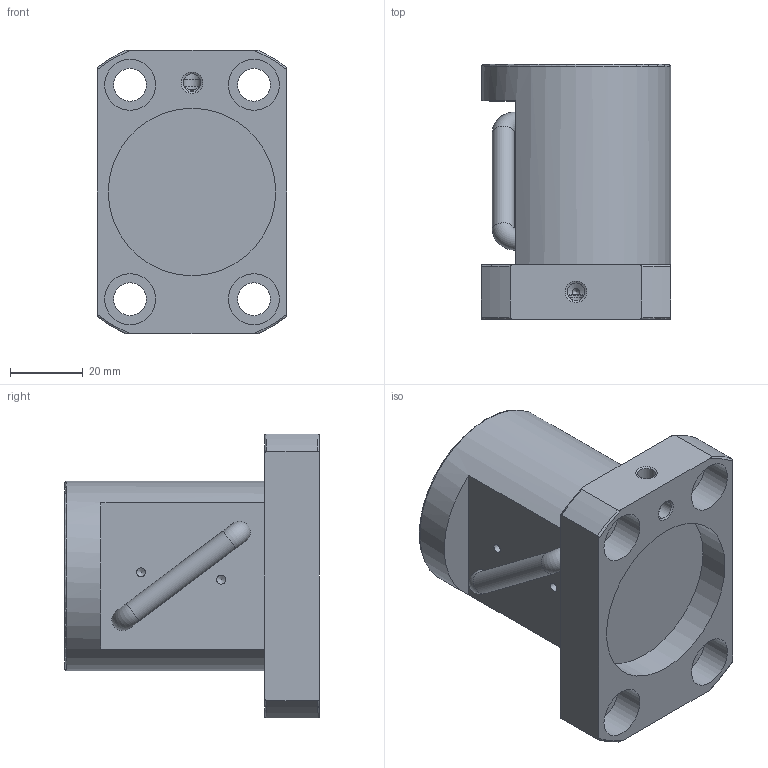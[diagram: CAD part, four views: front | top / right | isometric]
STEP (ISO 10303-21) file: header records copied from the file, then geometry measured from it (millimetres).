
FILE_DESCRIPTION(/* description */ ('Unknown'),/* implementation_level */ '2;1');
FILE_NAME(/* name */ '2520',/* time_stamp */ '2020-11-06T17:06:01+08:00',/* author */ ('Unknown'),/* organization */ ('Unknown'),/* preprocessor_version */ 'ST-DEVELOPER v16.7',/* originating_system */ 'DEX',/* authorisation */ $);
FILE_SCHEMA (('AUTOMOTIVE_DESIGN {1 0 10303 214 3 1 1}'));
Length unit declared in the file: millimetre
Products named in the file (1): 2520
Bounding box: 52 x 70 x 78 mm (x, y, z)
Volume: 130366.1 mm3; surface area: 26108.7 mm2
Topology: 1 solids, 1 shells, 59 faces, 154 edges, 102 vertices
Faces by surface type: cylinder 24, plane 15, torus 11, cone 9
Full cylindrical faces by diameter (mm): 2.459 x2, 4.917 x2, 6 x3, 9 x4, 14 x4, 46 x2, 52 x1
Entity records: 2844 total; most frequent: CARTESIAN_POINT 1104, DIRECTION 279, ORIENTED_EDGE 226, AXIS2_PLACEMENT_3D 129, EDGE_CURVE 113, FACE_BOUND 105, EDGE_LOOP 102, VERTEX_POINT 90
